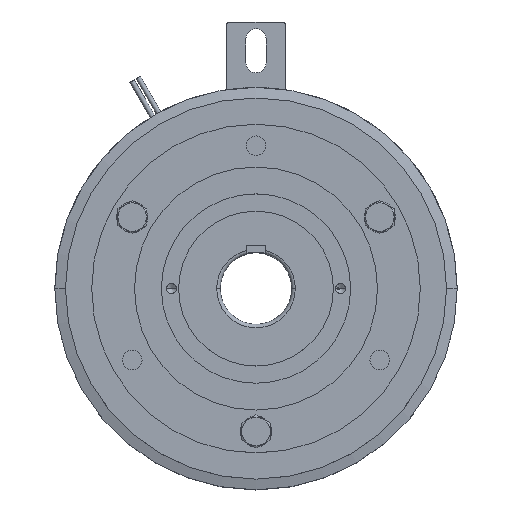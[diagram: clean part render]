
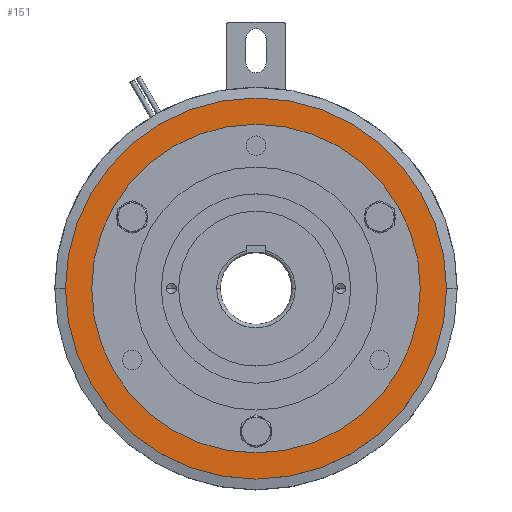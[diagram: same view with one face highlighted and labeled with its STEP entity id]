
A CAD part, top view. The second image highlights one B-rep face of the part: STEP entity #151.
In plain terms, the highlighted planar face has unit normal (0, 0, 1).
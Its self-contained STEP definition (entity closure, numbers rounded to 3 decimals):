
#151 = ADVANCED_FACE ( 'NONE', ( #6701, #6697 ), #7204, .T. ) ;
#1068 = ORIENTED_EDGE ( 'NONE', *, *, #7551, .T. ) ;
#1069 = ORIENTED_EDGE ( 'NONE', *, *, #7594, .T. ) ;
#1070 = ORIENTED_EDGE ( 'NONE', *, *, #7549, .F. ) ;
#1076 = ORIENTED_EDGE ( 'NONE', *, *, #7595, .F. ) ;
#1329 = VERTEX_POINT ( 'NONE', #3631 ) ;
#1330 = VERTEX_POINT ( 'NONE', #3632 ) ;
#1331 = VERTEX_POINT ( 'NONE', #3633 ) ;
#1332 = VERTEX_POINT ( 'NONE', #3634 ) ;
#2881 = AXIS2_PLACEMENT_3D ( 'NONE', #4370, #4371, #4372 ) ;
#2882 = AXIS2_PLACEMENT_3D ( 'NONE', #4365, #4366, #4367 ) ;
#2896 = AXIS2_PLACEMENT_3D ( 'NONE', #4235, #4236, #4237 ) ;
#2897 = AXIS2_PLACEMENT_3D ( 'NONE', #4229, #4230, #4231 ) ;
#3631 = CARTESIAN_POINT ( 'NONE',  ( -69., 0., 45.5 ) ) ;
#3632 = CARTESIAN_POINT ( 'NONE',  ( 69., 0., 45.5 ) ) ;
#3633 = CARTESIAN_POINT ( 'NONE',  ( -80., 0., 45.5 ) ) ;
#3634 = CARTESIAN_POINT ( 'NONE',  ( 80., 0., 45.5 ) ) ;
#4229 = CARTESIAN_POINT ( 'NONE',  ( 0., 0., 45.5 ) ) ;
#4230 = DIRECTION ( 'NONE',  ( 0., 0., 1. ) ) ;
#4231 = DIRECTION ( 'NONE',  ( 1., 0., 0. ) ) ;
#4235 = CARTESIAN_POINT ( 'NONE',  ( 0., 0., 45.5 ) ) ;
#4236 = DIRECTION ( 'NONE',  ( 0., 0., 1. ) ) ;
#4237 = DIRECTION ( 'NONE',  ( 1., 0., 0. ) ) ;
#4365 = CARTESIAN_POINT ( 'NONE',  ( 0., 0., 45.5 ) ) ;
#4366 = DIRECTION ( 'NONE',  ( 0., 0., 1. ) ) ;
#4367 = DIRECTION ( 'NONE',  ( 1., 0., 0. ) ) ;
#4370 = CARTESIAN_POINT ( 'NONE',  ( 0., 0., 45.5 ) ) ;
#4371 = DIRECTION ( 'NONE',  ( 0., 0., 1. ) ) ;
#4372 = DIRECTION ( 'NONE',  ( 1., 0., 0. ) ) ;
#4606 = EDGE_LOOP ( 'NONE', ( #1069, #1068 ) ) ;
#4618 = EDGE_LOOP ( 'NONE', ( #1076, #1070 ) ) ;
#6252 = CIRCLE ( 'NONE', #2896, 80. ) ;
#6256 = CIRCLE ( 'NONE', #2897, 69. ) ;
#6466 = CIRCLE ( 'NONE', #2881, 69. ) ;
#6505 = CIRCLE ( 'NONE', #2882, 80. ) ;
#6697 = FACE_OUTER_BOUND ( 'NONE', #4606, .T. ) ;
#6701 = FACE_BOUND ( 'NONE', #4618, .T. ) ;
#7204 = PLANE ( 'NONE',  #8832 ) ;
#7211 = CARTESIAN_POINT ( 'NONE',  ( 0., 0., 45.5 ) ) ;
#7212 = DIRECTION ( 'NONE',  ( 0., 0., 1. ) ) ;
#7213 = DIRECTION ( 'NONE',  ( 1., 0., 0. ) ) ;
#7549 = EDGE_CURVE ( 'NONE', #1330, #1329, #6256, .T. ) ;
#7551 = EDGE_CURVE ( 'NONE', #1332, #1331, #6252, .T. ) ;
#7594 = EDGE_CURVE ( 'NONE', #1331, #1332, #6505, .T. ) ;
#7595 = EDGE_CURVE ( 'NONE', #1329, #1330, #6466, .T. ) ;
#8832 = AXIS2_PLACEMENT_3D ( 'NONE', #7211, #7212, #7213 ) ;
